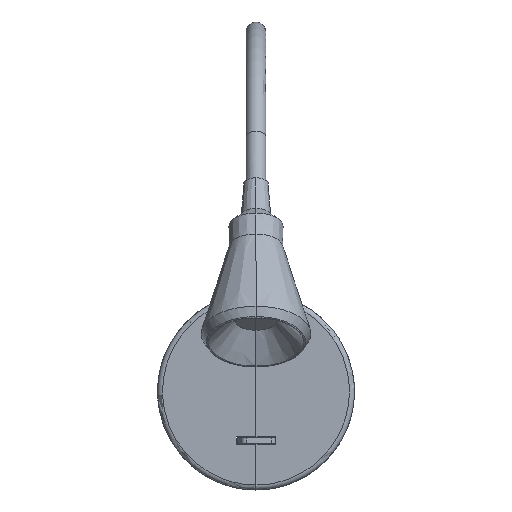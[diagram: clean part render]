
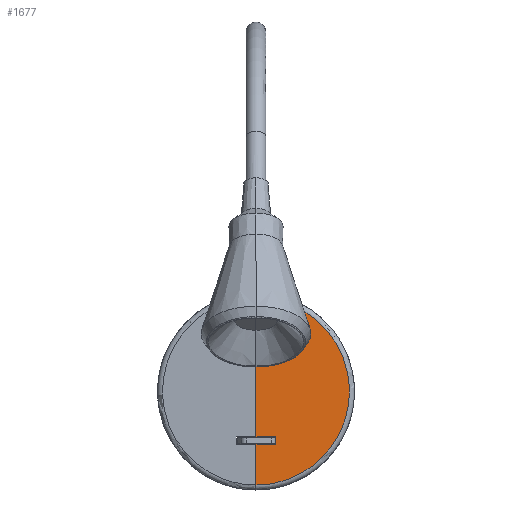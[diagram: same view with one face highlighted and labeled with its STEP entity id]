
A CAD part, top view. The second image highlights one B-rep face of the part: STEP entity #1677.
In plain terms, the highlighted planar face has unit normal (0, 0, 1).
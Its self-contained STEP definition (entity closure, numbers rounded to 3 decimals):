
#131=B_SPLINE_CURVE_WITH_KNOTS('',3,(#3056,#3057,#3058,#3059),
 .UNSPECIFIED.,.F.,.F.,(4,4),(0.,0.167),.UNSPECIFIED.);
#132=B_SPLINE_CURVE_WITH_KNOTS('',3,(#3061,#3062,#3063,#3064),
 .UNSPECIFIED.,.F.,.F.,(4,4),(0.833,1.),.UNSPECIFIED.);
#133=B_SPLINE_CURVE_WITH_KNOTS('',3,(#3065,#3066,#3067,#3068,#3069,#3070,
#3071),.UNSPECIFIED.,.F.,.F.,(4,1,1,1,4),(0.167,0.333,
0.5,0.667,0.833),.UNSPECIFIED.);
#201=FACE_OUTER_BOUND('',#303,.T.);
#303=EDGE_LOOP('',(#1350,#1351,#1352,#1353,#1354,#1355,#1356,#1357));
#461=LINE('',#2790,#585);
#466=LINE('',#2802,#590);
#470=LINE('',#2808,#594);
#480=LINE('',#3039,#604);
#481=LINE('',#3041,#605);
#585=VECTOR('',#2093,304.8);
#590=VECTOR('',#2102,304.8);
#594=VECTOR('',#2108,304.8);
#604=VECTOR('',#2148,304.8);
#605=VECTOR('',#2149,304.8);
#725=VERTEX_POINT('',#2780);
#729=VERTEX_POINT('',#2788);
#732=VERTEX_POINT('',#2798);
#734=VERTEX_POINT('',#2801);
#754=VERTEX_POINT('',#3033);
#756=VERTEX_POINT('',#3040);
#758=VERTEX_POINT('',#3055);
#759=VERTEX_POINT('',#3060);
#921=EDGE_CURVE('',#725,#729,#461,.T.);
#926=EDGE_CURVE('',#734,#732,#466,.T.);
#930=EDGE_CURVE('',#732,#725,#470,.T.);
#961=EDGE_CURVE('',#729,#754,#480,.T.);
#962=EDGE_CURVE('',#756,#734,#481,.T.);
#965=EDGE_CURVE('',#756,#758,#131,.T.);
#966=EDGE_CURVE('',#759,#754,#132,.T.);
#967=EDGE_CURVE('',#758,#759,#133,.T.);
#1350=ORIENTED_EDGE('',*,*,#965,.F.);
#1351=ORIENTED_EDGE('',*,*,#962,.T.);
#1352=ORIENTED_EDGE('',*,*,#926,.T.);
#1353=ORIENTED_EDGE('',*,*,#930,.T.);
#1354=ORIENTED_EDGE('',*,*,#921,.T.);
#1355=ORIENTED_EDGE('',*,*,#961,.T.);
#1356=ORIENTED_EDGE('',*,*,#966,.F.);
#1357=ORIENTED_EDGE('',*,*,#967,.F.);
#1595=PLANE('',#1818);
#1677=ADVANCED_FACE('',(#201),#1595,.T.);
#1818=AXIS2_PLACEMENT_3D('',#3054,#2150,#2151);
#2093=DIRECTION('',(1.,0.,0.));
#2102=DIRECTION('',(-1.,0.,0.));
#2108=DIRECTION('',(0.,1.,0.));
#2148=DIRECTION('',(0.,1.,0.));
#2149=DIRECTION('',(0.,1.,0.));
#2150=DIRECTION('center_axis',(0.,0.,1.));
#2151=DIRECTION('ref_axis',(0.,1.,0.));
#2780=CARTESIAN_POINT('',(-8.,21.5,28.));
#2788=CARTESIAN_POINT('',(0.,21.5,28.));
#2790=CARTESIAN_POINT('',(-8.,21.5,28.));
#2798=CARTESIAN_POINT('',(-8.,18.5,28.));
#2801=CARTESIAN_POINT('',(0.,18.5,28.));
#2802=CARTESIAN_POINT('',(0.,18.5,28.));
#2808=CARTESIAN_POINT('',(-8.,18.5,28.));
#3033=CARTESIAN_POINT('',(0.,37.99,28.));
#3039=CARTESIAN_POINT('',(0.,21.5,28.));
#3040=CARTESIAN_POINT('',(0.,-37.99,28.));
#3041=CARTESIAN_POINT('',(0.,0.,28.));
#3054=CARTESIAN_POINT('Origin',(0.,0.,28.));
#3055=CARTESIAN_POINT('',(-18.995,-32.9,28.));
#3056=CARTESIAN_POINT('Ctrl Pts',(0.,-37.99,
28.));
#3057=CARTESIAN_POINT('Ctrl Pts',(-6.713,-38.138,28.));
#3058=CARTESIAN_POINT('Ctrl Pts',(-13.278,-36.254,28.));
#3059=CARTESIAN_POINT('Ctrl Pts',(-18.995,-32.9,28.));
#3060=CARTESIAN_POINT('',(-18.995,32.9,28.));
#3061=CARTESIAN_POINT('Ctrl Pts',(-18.995,32.9,28.));
#3062=CARTESIAN_POINT('Ctrl Pts',(-13.278,36.254,28.));
#3063=CARTESIAN_POINT('Ctrl Pts',(-6.713,38.138,28.));
#3064=CARTESIAN_POINT('Ctrl Pts',(0.,37.99,
28.));
#3065=CARTESIAN_POINT('Ctrl Pts',(-18.995,-32.9,28.));
#3066=CARTESIAN_POINT('Ctrl Pts',(-24.712,-29.546,28.));
#3067=CARTESIAN_POINT('Ctrl Pts',(-34.449,-19.9,28.));
#3068=CARTESIAN_POINT('Ctrl Pts',(-39.76,0.,
28.));
#3069=CARTESIAN_POINT('Ctrl Pts',(-34.449,19.9,28.));
#3070=CARTESIAN_POINT('Ctrl Pts',(-24.712,29.546,28.));
#3071=CARTESIAN_POINT('Ctrl Pts',(-18.995,32.9,28.));
